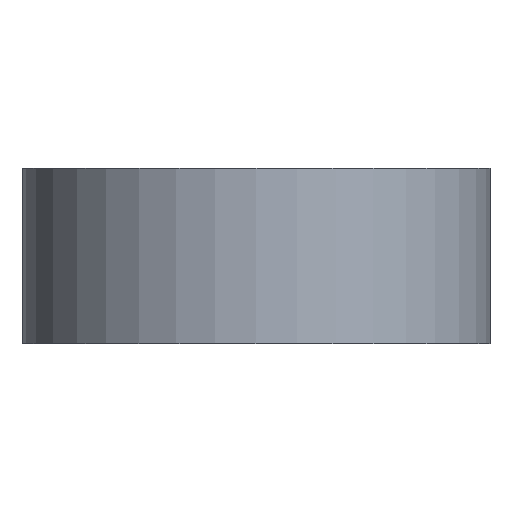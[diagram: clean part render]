
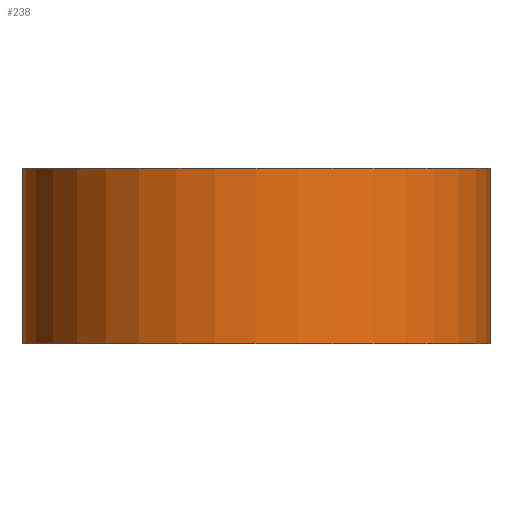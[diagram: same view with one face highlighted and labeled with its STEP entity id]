
A CAD part, left-side view. The second image highlights one B-rep face of the part: STEP entity #238.
In plain terms, the highlighted cylindrical face has radius 8 mm (diameter 16 mm), a partial arc.
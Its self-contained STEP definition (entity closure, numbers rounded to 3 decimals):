
#78=FACE_OUTER_BOUND('',#88,.T.);
#88=EDGE_LOOP('',(#187,#188,#189,#190));
#107=LINE('',#383,#119);
#108=LINE('',#386,#120);
#119=VECTOR('',#312,10.);
#120=VECTOR('',#315,10.);
#131=CIRCLE('',#274,8.);
#132=CIRCLE('',#275,8.);
#147=VERTEX_POINT('',#379);
#148=VERTEX_POINT('',#380);
#149=VERTEX_POINT('',#382);
#150=VERTEX_POINT('',#384);
#163=EDGE_CURVE('',#147,#148,#131,.T.);
#164=EDGE_CURVE('',#149,#147,#107,.T.);
#165=EDGE_CURVE('',#150,#149,#132,.T.);
#166=EDGE_CURVE('',#150,#148,#108,.T.);
#187=ORIENTED_EDGE('',*,*,#163,.F.);
#188=ORIENTED_EDGE('',*,*,#164,.F.);
#189=ORIENTED_EDGE('',*,*,#165,.F.);
#190=ORIENTED_EDGE('',*,*,#166,.T.);
#232=CYLINDRICAL_SURFACE('',#273,8.);
#238=ADVANCED_FACE('',(#78),#232,.T.);
#273=AXIS2_PLACEMENT_3D('',#378,#308,#309);
#274=AXIS2_PLACEMENT_3D('',#381,#310,#311);
#275=AXIS2_PLACEMENT_3D('',#385,#313,#314);
#308=DIRECTION('center_axis',(0.,0.,-1.));
#309=DIRECTION('ref_axis',(0.,-1.,0.));
#310=DIRECTION('center_axis',(0.,0.,1.));
#311=DIRECTION('ref_axis',(0.,-1.,0.));
#312=DIRECTION('',(0.,0.,1.));
#313=DIRECTION('center_axis',(0.,0.,-1.));
#314=DIRECTION('ref_axis',(0.,-1.,0.));
#315=DIRECTION('',(0.,0.,1.));
#378=CARTESIAN_POINT('Origin',(-30.,0.,6.));
#379=CARTESIAN_POINT('',(-30.,8.,6.));
#380=CARTESIAN_POINT('',(-30.,-8.,6.));
#381=CARTESIAN_POINT('Origin',(-30.,0.,6.));
#382=CARTESIAN_POINT('',(-30.,8.,0.));
#383=CARTESIAN_POINT('',(-30.,8.,6.));
#384=CARTESIAN_POINT('',(-30.,-8.,0.));
#385=CARTESIAN_POINT('Origin',(-30.,0.,0.));
#386=CARTESIAN_POINT('',(-30.,-8.,6.));
